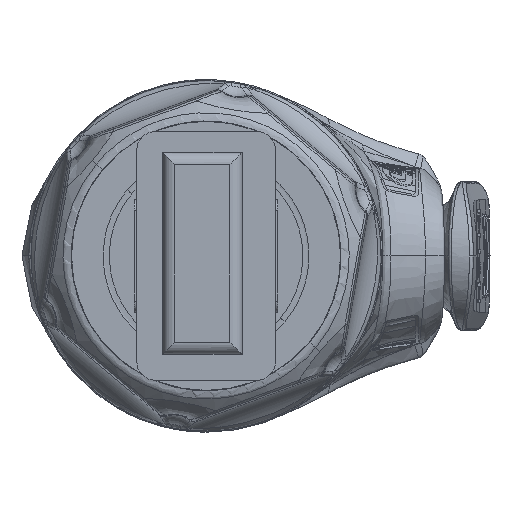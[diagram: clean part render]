
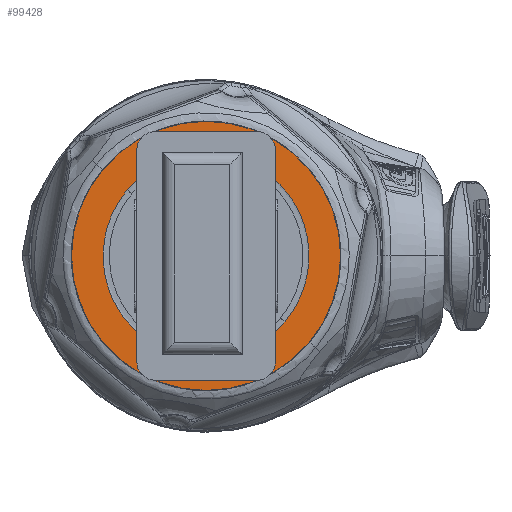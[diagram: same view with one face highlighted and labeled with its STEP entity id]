
A CAD part, left-side view. The second image highlights one B-rep face of the part: STEP entity #99428.
In plain terms, the highlighted planar face has unit normal (-1, 0, 0).
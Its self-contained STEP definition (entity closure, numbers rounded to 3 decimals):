
#1386 = CARTESIAN_POINT ( 'NONE',  ( -59.321, 3.825, 10.431 ) ) ;
#1830 = EDGE_CURVE ( 'NONE', #3343, #47132, #102805, .T. ) ;
#2387 = CARTESIAN_POINT ( 'NONE',  ( -59.321, 10.943, 1.919 ) ) ;
#2680 = CARTESIAN_POINT ( 'NONE',  ( -59.321, 8.451, 7.067 ) ) ;
#3343 = VERTEX_POINT ( 'NONE', #34265 ) ;
#3801 = B_SPLINE_CURVE_WITH_KNOTS ( 'NONE', 3,
 ( #75481, #86097, #64861, #116651, #84808, #94109, #54873, #114710, #116001, #66171, #104722, #95404, #114055, #42949, #2387, #24955, #4344, #13669 ),
 .UNSPECIFIED., .F., .F.,
 ( 4, 2, 2, 2, 2, 2, 2, 2, 4 ),
 ( 0., 0.125, 0.25, 0.375, 0.5, 0.625, 0.75, 0.875, 1. ),
 .UNSPECIFIED. ) ;
#4344 = CARTESIAN_POINT ( 'NONE',  ( -59.321, 9.376, 5.961 ) ) ;
#6286 = CARTESIAN_POINT ( 'NONE',  ( -59.321, 8.464, 0.349 ) ) ;
#6956 = CARTESIAN_POINT ( 'NONE',  ( -59.321, 8.269, -1.841 ) ) ;
#7664 = CARTESIAN_POINT ( 'NONE',  ( -59.321, -6.232, 5.738 ) ) ;
#10989 = CARTESIAN_POINT ( 'NONE',  ( -59.321, -6.444, -5.389 ) ) ;
#13669 = CARTESIAN_POINT ( 'NONE',  ( -59.321, 8.451, 7.067 ) ) ;
#16298 = CARTESIAN_POINT ( 'NONE',  ( -59.321, 5.738, 6.232 ) ) ;
#17629 = CARTESIAN_POINT ( 'NONE',  ( -59.321, -7.687, -3.562 ) ) ;
#20656 = CARTESIAN_POINT ( 'NONE',  ( -59.321, -1.919, 10.943 ) ) ;
#21335 = CARTESIAN_POINT ( 'NONE',  ( -59.321, 0.349, -8.464 ) ) ;
#24955 = CARTESIAN_POINT ( 'NONE',  ( -59.321, 10.081, 4.671 ) ) ;
#27373 = CARTESIAN_POINT ( 'NONE',  ( -59.321, 9.174, -10.97 ) ) ;
#27584 = CARTESIAN_POINT ( 'NONE',  ( -59.321, 6.935, -4.866 ) ) ;
#31317 = CARTESIAN_POINT ( 'NONE',  ( -59.321, -8.451, -7.067 ) ) ;
#33942 = CARTESIAN_POINT ( 'NONE',  ( -59.321, -2.917, -7.954 ) ) ;
#34265 = CARTESIAN_POINT ( 'NONE',  ( -59.321, 6.444, 5.389 ) ) ;
#36280 = CARTESIAN_POINT ( 'NONE',  ( -59.321, -6.935, 4.866 ) ) ;
#38261 = CARTESIAN_POINT ( 'NONE',  ( -59.321, -0.349, 8.464 ) ) ;
#41285 = CARTESIAN_POINT ( 'NONE',  ( -59.321, 6.381, 9.095 ) ) ;
#41942 = CARTESIAN_POINT ( 'NONE',  ( -59.321, -0.458, 11.101 ) ) ;
#41958 = CARTESIAN_POINT ( 'NONE',  ( -59.321, 1.463, -8.344 ) ) ;
#42595 = CARTESIAN_POINT ( 'NONE',  ( -59.321, 7.526, 8.173 ) ) ;
#42949 = CARTESIAN_POINT ( 'NONE',  ( -59.321, 11.101, 0.458 ) ) ;
#47132 = VERTEX_POINT ( 'NONE', #10989 ) ;
#47534 = CARTESIAN_POINT ( 'NONE',  ( -59.321, 7.954, -2.917 ) ) ;
#47984 = FACE_BOUND ( 'NONE', #103872, .T. ) ;
#48188 = CARTESIAN_POINT ( 'NONE',  ( -59.321, 3.562, -7.687 ) ) ;
#48240 = CARTESIAN_POINT ( 'NONE',  ( -59.321, -7.954, 2.917 ) ) ;
#48446 = CARTESIAN_POINT ( 'NONE',  ( -59.321, 8.451, 7.067 ) ) ;
#49298 = FACE_OUTER_BOUND ( 'NONE', #58529, .T. ) ;
#51274 = CARTESIAN_POINT ( 'NONE',  ( -59.321, -10.943, -1.919 ) ) ;
#53693 = AXIS2_PLACEMENT_3D ( 'NONE', #27373, #119063, #128993 ) ;
#54873 = CARTESIAN_POINT ( 'NONE',  ( -59.321, 1.919, -10.943 ) ) ;
#58212 = CARTESIAN_POINT ( 'NONE',  ( -59.321, -8.269, 1.841 ) ) ;
#58529 = EDGE_LOOP ( 'NONE', ( #103976, #110315 ) ) ;
#59262 = PLANE ( 'NONE',  #53693 ) ;
#61256 = CARTESIAN_POINT ( 'NONE',  ( -59.321, -5.961, 9.376 ) ) ;
#61926 = CARTESIAN_POINT ( 'NONE',  ( -59.321, -4.866, -6.935 ) ) ;
#62562 = CARTESIAN_POINT ( 'NONE',  ( -59.321, -10.081, -4.671 ) ) ;
#62578 = CARTESIAN_POINT ( 'NONE',  ( -59.321, -5.738, -6.232 ) ) ;
#64861 = CARTESIAN_POINT ( 'NONE',  ( -59.321, -6.381, -9.095 ) ) ;
#66171 = CARTESIAN_POINT ( 'NONE',  ( -59.321, 8.173, -7.526 ) ) ;
#66865 = CARTESIAN_POINT ( 'NONE',  ( -59.321, -8.464, -0.349 ) ) ;
#67522 = CARTESIAN_POINT ( 'NONE',  ( -59.321, -1.463, 8.344 ) ) ;
#67611 = VERTEX_POINT ( 'NONE', #95577 ) ;
#68138 = CARTESIAN_POINT ( 'NONE',  ( -59.321, 6.232, -5.738 ) ) ;
#71746 = VERTEX_POINT ( 'NONE', #48446 ) ;
#71903 = CARTESIAN_POINT ( 'NONE',  ( -59.321, 6.444, 5.389 ) ) ;
#72541 = CARTESIAN_POINT ( 'NONE',  ( -59.321, -9.095, 6.381 ) ) ;
#73828 = CARTESIAN_POINT ( 'NONE',  ( -59.321, -8.173, 7.526 ) ) ;
#75481 = CARTESIAN_POINT ( 'NONE',  ( -59.321, -8.451, -7.067 ) ) ;
#77495 = CARTESIAN_POINT ( 'NONE',  ( -59.321, 2.917, 7.954 ) ) ;
#78806 = CARTESIAN_POINT ( 'NONE',  ( -59.321, 6.444, 5.389 ) ) ;
#81693 = EDGE_CURVE ( 'NONE', #67611, #71746, #3801, .T. ) ;
#82506 = CARTESIAN_POINT ( 'NONE',  ( -59.321, -4.671, 10.081 ) ) ;
#83151 = CARTESIAN_POINT ( 'NONE',  ( -59.321, -10.431, 3.825 ) ) ;
#83169 = CARTESIAN_POINT ( 'NONE',  ( -59.321, -6.444, -5.389 ) ) ;
#84808 = CARTESIAN_POINT ( 'NONE',  ( -59.321, -2.415, -10.845 ) ) ;
#86097 = CARTESIAN_POINT ( 'NONE',  ( -59.321, -7.526, -8.173 ) ) ;
#87566 = B_SPLINE_CURVE_WITH_KNOTS ( 'NONE', 3,
 ( #2680, #42595, #41285, #1386, #92456, #41942, #20656, #82506, #61256, #73828, #72541, #83151, #114355, #104363, #51274, #62562, #124296, #31317 ),
 .UNSPECIFIED., .F., .F.,
 ( 4, 2, 2, 2, 2, 2, 2, 2, 4 ),
 ( 0., 0.125, 0.25, 0.375, 0.5, 0.625, 0.75, 0.875, 1. ),
 .UNSPECIFIED. ) ;
#88124 = CARTESIAN_POINT ( 'NONE',  ( -59.321, -4.545, 7.149 ) ) ;
#88774 = CARTESIAN_POINT ( 'NONE',  ( -59.321, 1.841, 8.269 ) ) ;
#91528 = ORIENTED_EDGE ( 'NONE', *, *, #113698, .F. ) ;
#92456 = CARTESIAN_POINT ( 'NONE',  ( -59.321, 2.415, 10.845 ) ) ;
#92475 = CARTESIAN_POINT ( 'NONE',  ( -59.321, -1.841, -8.269 ) ) ;
#94109 = CARTESIAN_POINT ( 'NONE',  ( -59.321, 0.458, -11.101 ) ) ;
#95404 = CARTESIAN_POINT ( 'NONE',  ( -59.321, 10.431, -3.825 ) ) ;
#95577 = CARTESIAN_POINT ( 'NONE',  ( -59.321, -8.451, -7.067 ) ) ;
#96736 = CARTESIAN_POINT ( 'NONE',  ( -59.321, -8.344, -1.463 ) ) ;
#97340 = CARTESIAN_POINT ( 'NONE',  ( -59.321, 7.687, 3.562 ) ) ;
#98008 = CARTESIAN_POINT ( 'NONE',  ( -59.321, 8.344, 1.463 ) ) ;
#99428 = ADVANCED_FACE ( 'NONE', ( #49298, #47984 ), #59262, .F. ) ;
#102805 = B_SPLINE_CURVE_WITH_KNOTS ( 'NONE', 3,
 ( #71903, #112418, #97340, #98008, #6286, #6956, #47534, #27584, #68138, #108640, #48188, #41958, #21335, #92475, #33942, #61926, #62578, #83169 ),
 .UNSPECIFIED., .F., .F.,
 ( 4, 2, 2, 2, 2, 2, 2, 2, 4 ),
 ( 0., 0.125, 0.25, 0.375, 0.5, 0.625, 0.75, 0.875, 1. ),
 .UNSPECIFIED. ) ;
#103872 = EDGE_LOOP ( 'NONE', ( #91528, #109879 ) ) ;
#103976 = ORIENTED_EDGE ( 'NONE', *, *, #81693, .F. ) ;
#104363 = CARTESIAN_POINT ( 'NONE',  ( -59.321, -11.101, -0.458 ) ) ;
#104722 = CARTESIAN_POINT ( 'NONE',  ( -59.321, 9.095, -6.381 ) ) ;
#106043 = CARTESIAN_POINT ( 'NONE',  ( -59.321, -7.149, -4.545 ) ) ;
#106702 = CARTESIAN_POINT ( 'NONE',  ( -59.321, -6.444, -5.389 ) ) ;
#108640 = CARTESIAN_POINT ( 'NONE',  ( -59.321, 4.545, -7.149 ) ) ;
#108938 = B_SPLINE_CURVE_WITH_KNOTS ( 'NONE', 3,
 ( #106702, #106043, #17629, #96736, #66865, #58212, #48240, #36280, #7664, #88124, #126609, #67522, #38261, #88774, #77495, #118002, #16298, #78806 ),
 .UNSPECIFIED., .F., .F.,
 ( 4, 2, 2, 2, 2, 2, 2, 2, 4 ),
 ( 0., 0.125, 0.25, 0.375, 0.5, 0.625, 0.75, 0.875, 1. ),
 .UNSPECIFIED. ) ;
#109879 = ORIENTED_EDGE ( 'NONE', *, *, #1830, .F. ) ;
#110315 = ORIENTED_EDGE ( 'NONE', *, *, #110366, .F. ) ;
#110366 = EDGE_CURVE ( 'NONE', #71746, #67611, #87566, .T. ) ;
#112418 = CARTESIAN_POINT ( 'NONE',  ( -59.321, 7.149, 4.545 ) ) ;
#113698 = EDGE_CURVE ( 'NONE', #47132, #3343, #108938, .T. ) ;
#114055 = CARTESIAN_POINT ( 'NONE',  ( -59.321, 10.845, -2.415 ) ) ;
#114355 = CARTESIAN_POINT ( 'NONE',  ( -59.321, -10.845, 2.415 ) ) ;
#114710 = CARTESIAN_POINT ( 'NONE',  ( -59.321, 4.671, -10.081 ) ) ;
#116001 = CARTESIAN_POINT ( 'NONE',  ( -59.321, 5.961, -9.376 ) ) ;
#116651 = CARTESIAN_POINT ( 'NONE',  ( -59.321, -3.825, -10.431 ) ) ;
#118002 = CARTESIAN_POINT ( 'NONE',  ( -59.321, 4.866, 6.935 ) ) ;
#119063 = DIRECTION ( 'NONE',  ( 1., 0., 0. ) ) ;
#124296 = CARTESIAN_POINT ( 'NONE',  ( -59.321, -9.376, -5.961 ) ) ;
#126609 = CARTESIAN_POINT ( 'NONE',  ( -59.321, -3.562, 7.687 ) ) ;
#128993 = DIRECTION ( 'NONE',  ( 0., 1., 0. ) ) ;
